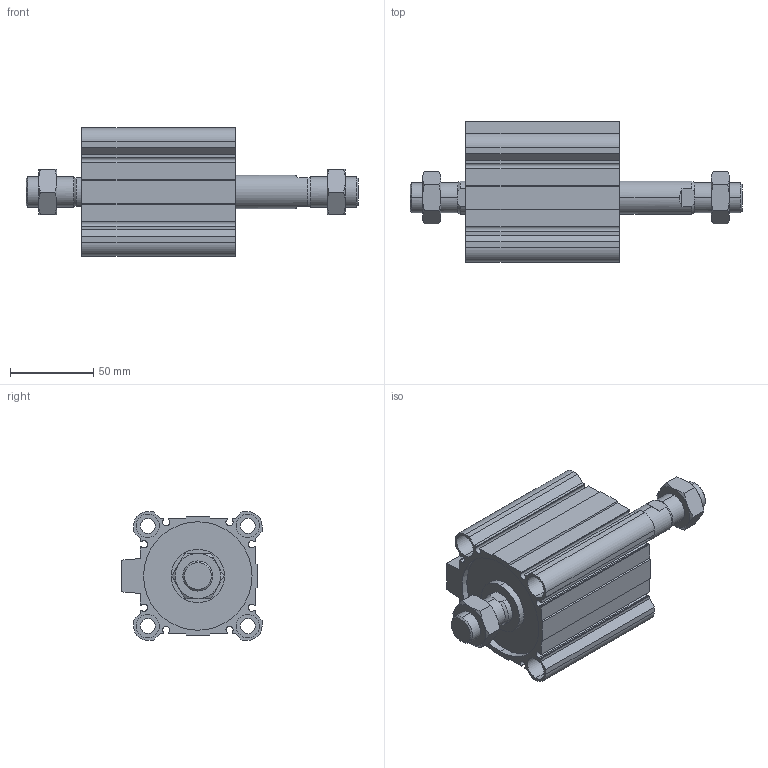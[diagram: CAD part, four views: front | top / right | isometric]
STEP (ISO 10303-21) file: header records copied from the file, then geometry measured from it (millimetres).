
FILE_DESCRIPTION (( 'STEP AP203' ), '1' );
FILE_NAME ('CCMB63-40M-P.STEP', '2020-08-10T11:50:43', ( '' ), ( '' ), 'SwSTEP 2.0', 'SolidWorks 2019', '' );
FILE_SCHEMA (( 'CONFIG_CONTROL_DESIGN' ));
Length unit declared in the file: millimetre
Products named in the file (1): CCMB63-40M-P
Bounding box: 199 x 84 x 77 mm (x, y, z)
Volume: 353517.9 mm3; surface area: 109074.3 mm2
Topology: 4 solids, 4 shells, 232 faces, 570 edges, 364 vertices
Faces by surface type: plane 110, cylinder 78, cone 44
Entity records: 7569 total; most frequent: CARTESIAN_POINT 1939, DIRECTION 1176, ORIENTED_EDGE 1140, EDGE_CURVE 570, AXIS2_PLACEMENT_3D 437, VERTEX_POINT 364, LINE 302, VECTOR 302
